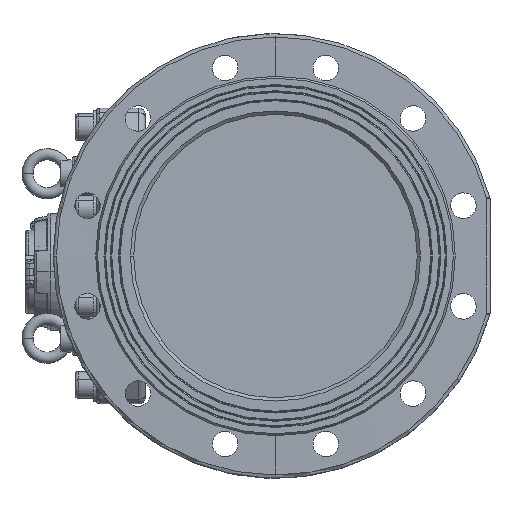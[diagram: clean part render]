
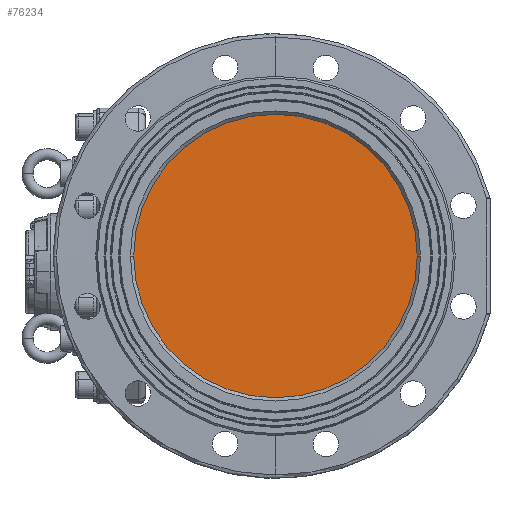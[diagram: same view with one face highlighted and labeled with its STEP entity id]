
A CAD part, left-side view. The second image highlights one B-rep face of the part: STEP entity #76234.
In plain terms, the highlighted planar face has unit normal (-1, 0, 0).
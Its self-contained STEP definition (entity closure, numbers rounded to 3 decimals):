
#20480 = CIRCLE ( 'NONE', #65106, 127.5 ) ;
#27317 = DIRECTION ( 'NONE',  ( 0., 1., 0. ) ) ;
#28497 = CARTESIAN_POINT ( 'NONE',  ( -222., -127.5, 0. ) ) ;
#34054 = EDGE_CURVE ( 'NONE', #39171, #46008, #91731, .T. ) ;
#34499 = FACE_OUTER_BOUND ( 'NONE', #36774, .T. ) ;
#36774 = EDGE_LOOP ( 'NONE', ( #96553, #37971 ) ) ;
#37971 = ORIENTED_EDGE ( 'NONE', *, *, #51239, .T. ) ;
#39171 = VERTEX_POINT ( 'NONE', #28497 ) ;
#42871 = PLANE ( 'NONE',  #47793 ) ;
#46008 = VERTEX_POINT ( 'NONE', #90425 ) ;
#47793 = AXIS2_PLACEMENT_3D ( 'NONE', #76468, #51289, #27317 ) ;
#51239 = EDGE_CURVE ( 'NONE', #46008, #39171, #20480, .T. ) ;
#51289 = DIRECTION ( 'NONE',  ( 1., 0., 0. ) ) ;
#55682 = DIRECTION ( 'NONE',  ( -1., 0., 0. ) ) ;
#63356 = DIRECTION ( 'NONE',  ( -1., 0., 0. ) ) ;
#65106 = AXIS2_PLACEMENT_3D ( 'NONE', #72308, #63356, #97518 ) ;
#72308 = CARTESIAN_POINT ( 'NONE',  ( -222., 0., 0. ) ) ;
#73537 = DIRECTION ( 'NONE',  ( 0., -1., 0. ) ) ;
#75546 = AXIS2_PLACEMENT_3D ( 'NONE', #89297, #55682, #73537 ) ;
#76234 = ADVANCED_FACE ( 'NONE', ( #34499 ), #42871, .F. ) ;
#76468 = CARTESIAN_POINT ( 'NONE',  ( -222., 0., 0. ) ) ;
#89297 = CARTESIAN_POINT ( 'NONE',  ( -222., 0., 0. ) ) ;
#90425 = CARTESIAN_POINT ( 'NONE',  ( -222., 127.5, 0. ) ) ;
#91731 = CIRCLE ( 'NONE', #75546, 127.5 ) ;
#96553 = ORIENTED_EDGE ( 'NONE', *, *, #34054, .T. ) ;
#97518 = DIRECTION ( 'NONE',  ( 0., -1., 0. ) ) ;
